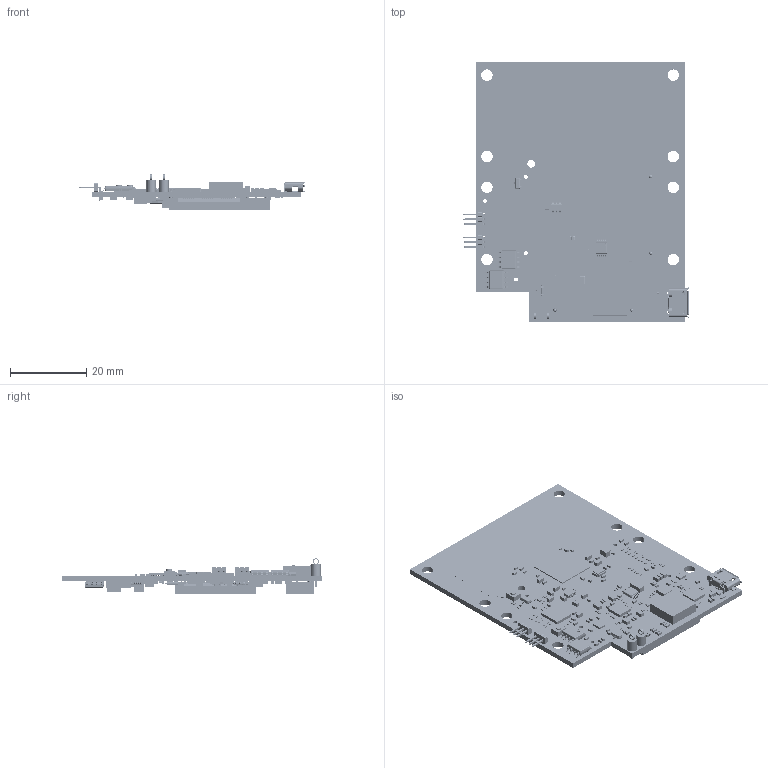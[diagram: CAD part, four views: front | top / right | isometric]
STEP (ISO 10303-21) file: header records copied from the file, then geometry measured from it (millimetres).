
FILE_DESCRIPTION(('Open CASCADE Model'),'2;1');
FILE_NAME('Open CASCADE Shape Model','2020-08-31T14:31:40',('Author'),( 'Open CASCADE'),'Open CASCADE STEP processor 6.8','Open CASCADE 6.8' ,'Unknown');
FILE_SCHEMA(('AUTOMOTIVE_DESIGN { 1 0 10303 214 1 1 1 1 }'));
Length unit declared in the file: millimetre
Products named in the file (643): PCB; Board; C104; Cap_CL05A226MQ5N6J8_0402_(1005_Metric); body; terminals; value; C102; C101; TP12; Keystone_5001; Keystone5001_black; Keystone500x_wire; U16; DRB0008B; BODY-SON; FRAME-DRB0008B; FRAME-DRB0008B_3; FRAME-DRB0008B_4; FRAME-DRB0008B_5; FRAME-DRB0008B_6; FRAME-DRB0008B_7; FRAME-DRB0008B_8; FRAME-DRB0008B_9; FRAME-DRB0008B_10; FRAME-DRB0008B_11; C96; 6281957760; Extruded; 6281957568; C95; C97; C88; C87; 6281957376; 6281957184; C86; C93; 6281956992; 6281956800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
Assembly tree (1695 placements, depth 6):
  PCB
    Board
    C104
      Cap_CL05A226MQ5N6J8_0402_(1005_Metric)
        body
        terminals
        value
    C102
      Cap_CL05A226MQ5N6J8_0402_(1005_Metric)
        body
        terminals
        value
    C101
      Cap_CL05A226MQ5N6J8_0402_(1005_Metric)
        body
        terminals
        value
    TP12
      Keystone_5001
        Keystone5001_black
        Keystone500x_wire
    U16
      DRB0008B
        BODY-SON
        FRAME-DRB0008B
          FRAME-DRB0008B_3
          FRAME-DRB0008B_4
          FRAME-DRB0008B_5
          FRAME-DRB0008B_6
          FRAME-DRB0008B_7
          FRAME-DRB0008B_8
          FRAME-DRB0008B_9
          FRAME-DRB0008B_10
          FRAME-DRB0008B_11
    C96
      6281957760  x2
        Extruded
      6281957568
        Extruded
    C95
      6281957760  x2
        Extruded
      6281957568
        Extruded
    C97
      6281957760  x2
        Extruded
      6281957568
        Extruded
    C88
      6281957760  x2
        Extruded
      6281957568
        Extruded
    C87
      6281957376  x2
        Extruded
      6281957184
        Extruded
    C86
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Bounding box: 59.42 x 68.46 x 9.34 mm (x, y, z)
Volume: 6700.6 mm3; surface area: 15033.4 mm2
Topology: 1470 solids, 1470 shells, 19383 faces, 48894 edges, 32043 vertices
Faces by surface type: plane 14398, cylinder 2352, bspline 1997, sphere 604, torus 24, revolution 8
Full cylindrical faces by diameter (mm): 0.25 x2, 0.4 x1, 0.6 x6, 0.85 x2, 1.016 x4, 1.02 x6, 2.032 x1, 2.5 x2, 3 x8
Entity records: 244632 total; most frequent: CARTESIAN_POINT 48355, ORIENTED_EDGE 36094, DIRECTION 33885, EDGE_CURVE 18047, LINE 14351, VECTOR 14351, VERTEX_POINT 11864, AXIS2_PLACEMENT_3D 9765
